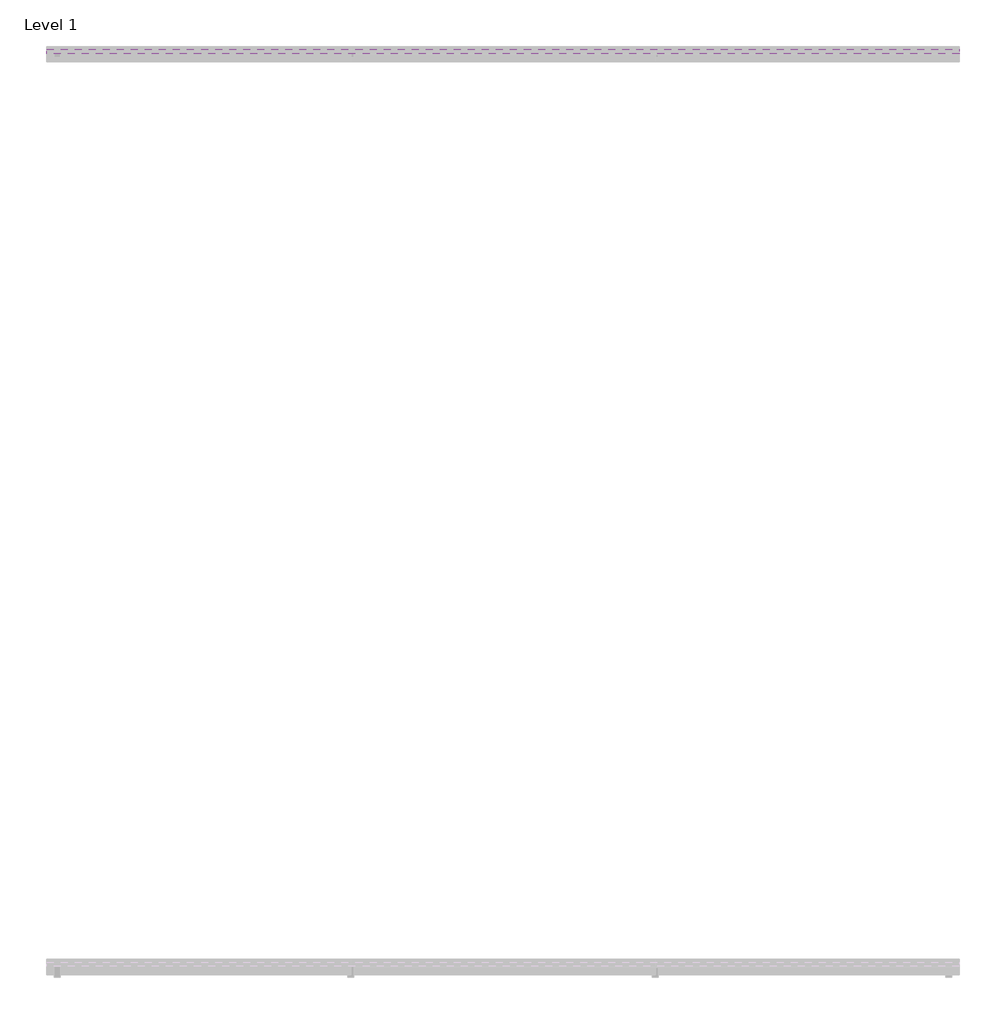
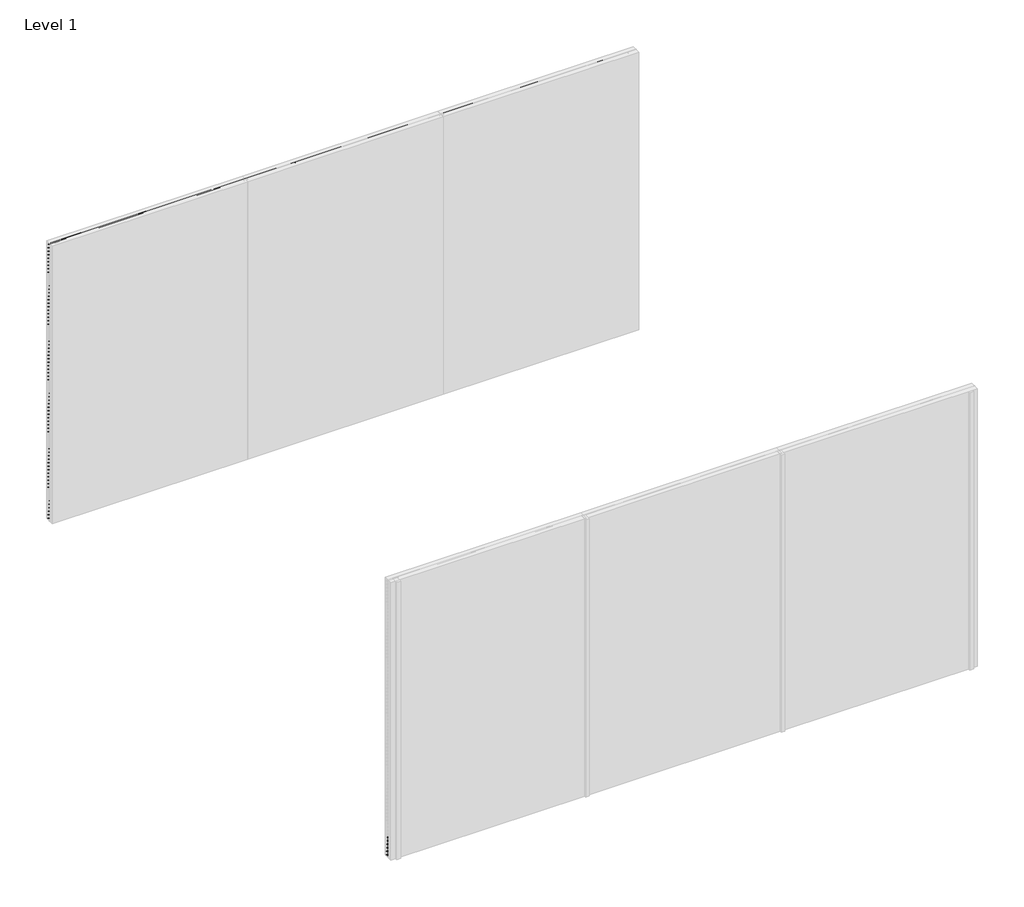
# One storey, part 2 of 2: 86 proxies.
"""IFC4 building model written with IfcOpenShell, lengths in millimetres."""

import ifcopenshell
import ifcopenshell.guid

model = None  # the IFC model being written
_history = None  # IfcOwnerHistory: only IFC2X3 demands one
_inside = {}  # id of a spatial element -> (the spatial element, [elements in it])
_under = {}  # id of a project, library or spatial element -> (it, [spatial elements below it])
_declared = {}  # id of a project -> (the project, [libraries it declares])
_typed = {}  # id of a type object -> (the type object, [elements of that type])
_made_of = {}  # id of a material, layer set ... -> (it, [elements and type objects made of it])


def new_model(schema):
    """Start an empty IFC model of exactly this schema.

    Asked for "IFC4X3", IfcOpenShell would pick the latest addendum, in which some entities
    have other attributes; the version numbers below select the first issue.
    IFC2X3 requires an IfcOwnerHistory on every rooted entity: one is made here for all.
    """
    global model, _history
    if schema == "IFC4X3":
        model = ifcopenshell.file(schema_version=(4, 3, 0, 0))
    else:
        model = ifcopenshell.file(schema=schema)
    _inside.clear()
    _under.clear()
    _declared.clear()
    _typed.clear()
    _made_of.clear()
    _history = None
    if model.schema == "IFC2X3":
        org = make("IfcOrganization", Name="unknown")
        user = make(
            "IfcPersonAndOrganization",
            ThePerson=make("IfcPerson", FamilyName="unknown"),
            TheOrganization=org,
        )
        app = make(
            "IfcApplication",
            ApplicationDeveloper=org,
            Version="unknown",
            ApplicationFullName="unknown",
            ApplicationIdentifier="unknown",
        )
        _history = make(
            "IfcOwnerHistory",
            OwningUser=user,
            OwningApplication=app,
            ChangeAction="ADDED",
            CreationDate=0,
        )
    return model


def make(cls, **values):
    """One entity of the class cls with the attributes given. An attribute that is None is left unset."""
    return model.create_entity(
        cls, **{name: value for name, value in values.items() if value is not None}
    )


def rooted(cls, **values):
    """An entity with a GlobalId (a new one), such as an element, a storey or a relation."""
    return make(cls, GlobalId=ifcopenshell.guid.new(), OwnerHistory=_history, **values)


def si_unit(unit_type, name, prefix=None):
    """IfcSIUnit, for example si_unit("LENGTHUNIT", "METRE", prefix="MILLI")."""
    return make("IfcSIUnit", UnitType=unit_type, Prefix=prefix, Name=name)


def assignment(units):
    """IfcUnitAssignment: the units of a project."""
    return None if units is None else make("IfcUnitAssignment", Units=units)


def point(xyz):
    """IfcCartesianPoint."""
    return None if xyz is None else make("IfcCartesianPoint", Coordinates=xyz)


def direction(xyz):
    """IfcDirection."""
    return None if xyz is None else make("IfcDirection", DirectionRatios=xyz)


def frame(location, z_axis=None, x_axis=None):
    """IfcAxis2Placement3D, a coordinate frame: its origin and axes. An axis left out is left unset."""
    return make(
        "IfcAxis2Placement3D",
        Location=point(location),
        Axis=direction(z_axis),
        RefDirection=direction(x_axis),
    )


def origin():
    """The frame at (0, 0, 0) with its axes left unset."""
    return frame((0.0, 0.0, 0.0))


def place(relative_to, where):
    """IfcLocalPlacement: puts the frame where relative to a parent placement (None: the world)."""
    return make(
        "IfcLocalPlacement", PlacementRelTo=relative_to, RelativePlacement=where
    )


def context(
    kind, dimensions, precision=None, world=None, true_north=None, identifier=None
):
    """IfcGeometricRepresentationContext, for example the 3D "Model" context."""
    return make(
        "IfcGeometricRepresentationContext",
        ContextIdentifier=identifier,
        ContextType=kind,
        CoordinateSpaceDimension=dimensions,
        Precision=precision,
        WorldCoordinateSystem=world,
        TrueNorth=true_north,
    )


def project(units=None, contexts=None):
    """IfcProject with its units and contexts."""
    return rooted(
        "IfcProject",
        Name="project",
        RepresentationContexts=contexts,
        UnitsInContext=assignment(units),
    )


def spatial(cls, under=None, at=None, **own):
    """A site, building, storey or space (cls), placed at a placement, below another one or the project."""
    s = rooted(cls, ObjectPlacement=at, **own)
    if under is not None:
        _under.setdefault(under.id(), (under, []))[1].append(s)
    return s


def polyline(points):
    """IfcPolyline through the points."""
    return make("IfcPolyline", Points=[point(p) for p in points])


def outline(outer, holes=None, kind="AREA"):
    """IfcArbitraryClosedProfileDef: a profile drawn as a closed curve; with holes, ...WithVoids."""
    if holes is None:
        return make("IfcArbitraryClosedProfileDef", ProfileType=kind, OuterCurve=outer)
    return make(
        "IfcArbitraryProfileDefWithVoids",
        ProfileType=kind,
        OuterCurve=outer,
        InnerCurves=holes,
    )


def extrude(swept, where, along, depth):
    """IfcExtrudedAreaSolid: the profile swept, set in the frame where, extruded along a direction by depth."""
    return make(
        "IfcExtrudedAreaSolid",
        SweptArea=swept,
        Position=where,
        ExtrudedDirection=direction(along),
        Depth=depth,
    )


def shape(context_of_items, identifier, shape_type, items):
    """IfcShapeRepresentation: the items that make up one representation, for example the "Body"."""
    return make(
        "IfcShapeRepresentation",
        ContextOfItems=context_of_items,
        RepresentationIdentifier=identifier,
        RepresentationType=shape_type,
        Items=items,
    )


def made_of(thing, what):
    """Note that an element or type object is made of a material, layer set ...; save() writes the relation."""
    if what is not None:
        _made_of.setdefault(what.id(), (what, []))[1].append(thing)
    return thing


def element(
    cls,
    number,
    at=None,
    inside=None,
    cuts=None,
    type_object=None,
    material=None,
    context=None,
    identifier="Body",
    shape_type=None,
    held_by="IfcProductDefinitionShape",
    body=None,
    shapes=None,
    **own,
):
    """One element of the class cls, such as IfcWall. Its Tag is "e" and its number.

    at: its placement. inside: the storey or other place that contains it. cuts: it is an
    opening in that element (IfcRelVoidsElement). A single representation is given by context,
    identifier, shape_type and body (its items); several are given by shapes. held_by: the class
    of the entity that holds the representations. save() writes the other relations.
    """
    e = rooted(cls, Tag="e%d" % number, ObjectPlacement=at, **own)
    if body is not None:
        shapes = [shape(context, identifier, shape_type, body)]
    if shapes is not None:
        e.Representation = make(held_by, Representations=shapes)
    if inside is not None:
        _inside.setdefault(inside.id(), (inside, []))[1].append(e)
    if cuts is not None:
        rooted(
            "IfcRelVoidsElement", RelatingBuildingElement=cuts, RelatedOpeningElement=e
        )
    if type_object is not None:
        _typed.setdefault(type_object.id(), (type_object, []))[1].append(e)
    return made_of(e, material)


def aggregate(whole, parts):
    """IfcRelAggregates: a whole, such as a stair, and the parts it consists of."""
    return rooted("IfcRelAggregates", RelatingObject=whole, RelatedObjects=parts)


def save(model, path):
    """Write the relations noted so far, then the file.

    IfcRelAggregates (storeys below a building ...), IfcRelContainedInSpatialStructure (elements
    in a storey), IfcRelDefinesByType, IfcRelAssociatesMaterial and IfcRelDeclares: one each for
    every whole, place, type object, material and project.
    """
    for whole, parts in _under.values():
        aggregate(whole, parts)
    for where, things in _inside.values():
        rooted(
            "IfcRelContainedInSpatialStructure",
            RelatedElements=things,
            RelatingStructure=where,
        )
    for kind, things in _typed.values():
        rooted("IfcRelDefinesByType", RelatedObjects=things, RelatingType=kind)
    for what, things in _made_of.values():
        rooted("IfcRelAssociatesMaterial", RelatedObjects=things, RelatingMaterial=what)
    for by, libraries in _declared.values():
        rooted("IfcRelDeclares", RelatingContext=by, RelatedDefinitions=libraries)
    model.write(path)


model = new_model("IFC4")

# Units and contexts
model_context = context("Model", 3, world=origin())
ifc_project = project(units=[si_unit("LENGTHUNIT", "METRE", prefix="MILLI")], contexts=[model_context])

# Site, building, storey
site = spatial("IfcSite", under=ifc_project)
building = spatial("IfcBuilding", under=site)
storey = spatial("IfcBuildingStorey", under=building, Name="Level 1", Elevation=0.0)

# Proxies
placement = place(None, origin())
element("IfcBuildingElementProxy", 1, Name="Wall Sweeps", at=placement, inside=storey, context=model_context, shape_type="SweptSolid", body=[
    extrude(outline(polyline([(-1995.0, 3000.0), (-1995.0, 2991.5372214), (-1969.0, 2974.0), (-1969.0, 2961.0), (-1997.0, 2979.8862385), (-1997.0, 3000.0), (-1995.0, 3000.0)])), frame((0.0, 0.0, 0.0), z_axis=(1.0, 0.0, 0.0), x_axis=(0.0, 1.0, 0.0)), (0.0, 0.0, 1.0), 6000.0),
])
element("IfcBuildingElementProxy", 2, Name="Wall Sweeps", at=placement, inside=storey, context=model_context, shape_type="SweptSolid", body=[
    extrude(outline(polyline([(-1995.0, 2962.5), (-1995.0, 2954.0372214), (-1969.0, 2936.5), (-1969.0, 2923.5), (-1997.0, 2942.3862385), (-1997.0, 2962.5), (-1995.0, 2962.5)])), frame((0.0, 0.0, 0.0), z_axis=(1.0, 0.0, 0.0), x_axis=(0.0, 1.0, 0.0)), (0.0, 0.0, 1.0), 6000.0),
])
element("IfcBuildingElementProxy", 3, Name="Wall Sweeps", at=placement, inside=storey, context=model_context, shape_type="SweptSolid", body=[
    extrude(outline(polyline([(-1995.0, 2925.0), (-1995.0, 2916.5372214), (-1969.0, 2899.0), (-1969.0, 2886.0), (-1997.0, 2904.8862385), (-1997.0, 2925.0), (-1995.0, 2925.0)])), frame((0.0, 0.0, 0.0), z_axis=(1.0, 0.0, 0.0), x_axis=(0.0, 1.0, 0.0)), (0.0, 0.0, 1.0), 6000.0),
])
element("IfcBuildingElementProxy", 4, Name="Wall Sweeps", at=placement, inside=storey, context=model_context, shape_type="SweptSolid", body=[
    extrude(outline(polyline([(-1995.0, 2887.5), (-1995.0, 2879.0372214), (-1969.0, 2861.5), (-1969.0, 2848.5), (-1997.0, 2867.3862385), (-1997.0, 2887.5), (-1995.0, 2887.5)])), frame((0.0, 0.0, 0.0), z_axis=(1.0, 0.0, 0.0), x_axis=(0.0, 1.0, 0.0)), (0.0, 0.0, 1.0), 6000.0),
])
element("IfcBuildingElementProxy", 5, Name="Wall Sweeps", at=placement, inside=storey, context=model_context, shape_type="SweptSolid", body=[
    extrude(outline(polyline([(-1995.0, 2850.0), (-1995.0, 2841.5372214), (-1969.0, 2824.0), (-1969.0, 2811.0), (-1997.0, 2829.8862385), (-1997.0, 2850.0), (-1995.0, 2850.0)])), frame((0.0, 0.0, 0.0), z_axis=(1.0, 0.0, 0.0), x_axis=(0.0, 1.0, 0.0)), (0.0, 0.0, 1.0), 6000.0),
])
element("IfcBuildingElementProxy", 6, Name="Wall Sweeps", at=placement, inside=storey, context=model_context, shape_type="SweptSolid", body=[
    extrude(outline(polyline([(-1995.0, 2812.5), (-1995.0, 2804.0372214), (-1969.0, 2786.5), (-1969.0, 2773.5), (-1997.0, 2792.3862385), (-1997.0, 2812.5), (-1995.0, 2812.5)])), frame((0.0, 0.0, 0.0), z_axis=(1.0, 0.0, 0.0), x_axis=(0.0, 1.0, 0.0)), (0.0, 0.0, 1.0), 6000.0),
])
element("IfcBuildingElementProxy", 7, Name="Wall Sweeps", at=placement, inside=storey, context=model_context, shape_type="SweptSolid", body=[
    extrude(outline(polyline([(-1995.0, 2775.0), (-1995.0, 2766.5372214), (-1969.0, 2749.0), (-1969.0, 2736.0), (-1997.0, 2754.8862385), (-1997.0, 2775.0), (-1995.0, 2775.0)])), frame((0.0, 0.0, 0.0), z_axis=(1.0, 0.0, 0.0), x_axis=(0.0, 1.0, 0.0)), (0.0, 0.0, 1.0), 6000.0),
])
element("IfcBuildingElementProxy", 8, Name="Wall Sweeps", at=placement, inside=storey, context=model_context, shape_type="SweptSolid", body=[
    extrude(outline(polyline([(-1995.0, 2737.5), (-1995.0, 2729.0372214), (-1969.0, 2711.5), (-1969.0, 2698.5), (-1997.0, 2717.3862385), (-1997.0, 2737.5), (-1995.0, 2737.5)])), frame((0.0, 0.0, 0.0), z_axis=(1.0, 0.0, 0.0), x_axis=(0.0, 1.0, 0.0)), (0.0, 0.0, 1.0), 6000.0),
])
element("IfcBuildingElementProxy", 9, Name="Wall Sweeps", at=placement, inside=storey, context=model_context, shape_type="SweptSolid", body=[
    extrude(outline(polyline([(-1995.0, 2700.0), (-1995.0, 2691.5372214), (-1969.0, 2674.0), (-1969.0, 2661.0), (-1997.0, 2679.8862385), (-1997.0, 2700.0), (-1995.0, 2700.0)])), frame((0.0, 0.0, 0.0), z_axis=(1.0, 0.0, 0.0), x_axis=(0.0, 1.0, 0.0)), (0.0, 0.0, 1.0), 6000.0),
])
element("IfcBuildingElementProxy", 10, Name="Wall Sweeps", at=placement, inside=storey, context=model_context, shape_type="SweptSolid", body=[
    extrude(outline(polyline([(-1995.0, 2662.5), (-1995.0, 2654.0372214), (-1969.0, 2636.5), (-1969.0, 2623.5), (-1997.0, 2642.3862385), (-1997.0, 2662.5), (-1995.0, 2662.5)])), frame((0.0, 0.0, 0.0), z_axis=(1.0, 0.0, 0.0), x_axis=(0.0, 1.0, 0.0)), (0.0, 0.0, 1.0), 6000.0),
])
element("IfcBuildingElementProxy", 11, Name="Wall Sweeps", at=placement, inside=storey, context=model_context, shape_type="SweptSolid", body=[
    extrude(outline(polyline([(-1995.0, 2625.0), (-1995.0, 2616.5372214), (-1969.0, 2599.0), (-1969.0, 2586.0), (-1997.0, 2604.8862385), (-1997.0, 2625.0), (-1995.0, 2625.0)])), frame((0.0, 0.0, 0.0), z_axis=(1.0, 0.0, 0.0), x_axis=(0.0, 1.0, 0.0)), (0.0, 0.0, 1.0), 6000.0),
])
element("IfcBuildingElementProxy", 12, Name="Wall Sweeps", at=placement, inside=storey, context=model_context, shape_type="SweptSolid", body=[
    extrude(outline(polyline([(-1995.0, 2587.5), (-1995.0, 2579.0372214), (-1969.0, 2561.5), (-1969.0, 2548.5), (-1997.0, 2567.3862385), (-1997.0, 2587.5), (-1995.0, 2587.5)])), frame((0.0, 0.0, 0.0), z_axis=(1.0, 0.0, 0.0), x_axis=(0.0, 1.0, 0.0)), (0.0, 0.0, 1.0), 6000.0),
])
element("IfcBuildingElementProxy", 13, Name="Wall Sweeps", at=placement, inside=storey, context=model_context, shape_type="SweptSolid", body=[
    extrude(outline(polyline([(-1995.0, 2550.0), (-1995.0, 2541.5372214), (-1969.0, 2524.0), (-1969.0, 2511.0), (-1997.0, 2529.8862385), (-1997.0, 2550.0), (-1995.0, 2550.0)])), frame((0.0, 0.0, 0.0), z_axis=(1.0, 0.0, 0.0), x_axis=(0.0, 1.0, 0.0)), (0.0, 0.0, 1.0), 6000.0),
])
element("IfcBuildingElementProxy", 14, Name="Wall Sweeps", at=placement, inside=storey, context=model_context, shape_type="SweptSolid", body=[
    extrude(outline(polyline([(-1995.0, 2512.5), (-1995.0, 2504.0372214), (-1969.0, 2486.5), (-1969.0, 2473.5), (-1997.0, 2492.3862385), (-1997.0, 2512.5), (-1995.0, 2512.5)])), frame((0.0, 0.0, 0.0), z_axis=(1.0, 0.0, 0.0), x_axis=(0.0, 1.0, 0.0)), (0.0, 0.0, 1.0), 6000.0),
])
element("IfcBuildingElementProxy", 15, Name="Wall Sweeps", at=placement, inside=storey, context=model_context, shape_type="SweptSolid", body=[
    extrude(outline(polyline([(-1995.0, 2475.0), (-1995.0, 2466.5372214), (-1969.0, 2449.0), (-1969.0, 2436.0), (-1997.0, 2454.8862385), (-1997.0, 2475.0), (-1995.0, 2475.0)])), frame((0.0, 0.0, 0.0), z_axis=(1.0, 0.0, 0.0), x_axis=(0.0, 1.0, 0.0)), (0.0, 0.0, 1.0), 6000.0),
])
element("IfcBuildingElementProxy", 16, Name="Wall Sweeps", at=placement, inside=storey, context=model_context, shape_type="SweptSolid", body=[
    extrude(outline(polyline([(-1995.0, 2437.5), (-1995.0, 2429.0372214), (-1969.0, 2411.5), (-1969.0, 2398.5), (-1997.0, 2417.3862385), (-1997.0, 2437.5), (-1995.0, 2437.5)])), frame((0.0, 0.0, 0.0), z_axis=(1.0, 0.0, 0.0), x_axis=(0.0, 1.0, 0.0)), (0.0, 0.0, 1.0), 6000.0),
])
element("IfcBuildingElementProxy", 17, Name="Wall Sweeps", at=placement, inside=storey, context=model_context, shape_type="SweptSolid", body=[
    extrude(outline(polyline([(-1995.0, 2400.0), (-1995.0, 2391.5372214), (-1969.0, 2374.0), (-1969.0, 2361.0), (-1997.0, 2379.8862385), (-1997.0, 2400.0), (-1995.0, 2400.0)])), frame((0.0, 0.0, 0.0), z_axis=(1.0, 0.0, 0.0), x_axis=(0.0, 1.0, 0.0)), (0.0, 0.0, 1.0), 6000.0),
])
element("IfcBuildingElementProxy", 18, Name="Wall Sweeps", at=placement, inside=storey, context=model_context, shape_type="SweptSolid", body=[
    extrude(outline(polyline([(-1995.0, 2362.5), (-1995.0, 2354.0372214), (-1969.0, 2336.5), (-1969.0, 2323.5), (-1997.0, 2342.3862385), (-1997.0, 2362.5), (-1995.0, 2362.5)])), frame((0.0, 0.0, 0.0), z_axis=(1.0, 0.0, 0.0), x_axis=(0.0, 1.0, 0.0)), (0.0, 0.0, 1.0), 6000.0),
])
element("IfcBuildingElementProxy", 19, Name="Wall Sweeps", at=placement, inside=storey, context=model_context, shape_type="SweptSolid", body=[
    extrude(outline(polyline([(-1995.0, 2325.0), (-1995.0, 2316.5372214), (-1969.0, 2299.0), (-1969.0, 2286.0), (-1997.0, 2304.8862385), (-1997.0, 2325.0), (-1995.0, 2325.0)])), frame((0.0, 0.0, 0.0), z_axis=(1.0, 0.0, 0.0), x_axis=(0.0, 1.0, 0.0)), (0.0, 0.0, 1.0), 6000.0),
])
element("IfcBuildingElementProxy", 20, Name="Wall Sweeps", at=placement, inside=storey, context=model_context, shape_type="SweptSolid", body=[
    extrude(outline(polyline([(-1995.0, 2287.5), (-1995.0, 2279.0372214), (-1969.0, 2261.5), (-1969.0, 2248.5), (-1997.0, 2267.3862385), (-1997.0, 2287.5), (-1995.0, 2287.5)])), frame((0.0, 0.0, 0.0), z_axis=(1.0, 0.0, 0.0), x_axis=(0.0, 1.0, 0.0)), (0.0, 0.0, 1.0), 6000.0),
])
element("IfcBuildingElementProxy", 21, Name="Wall Sweeps", at=placement, inside=storey, context=model_context, shape_type="SweptSolid", body=[
    extrude(outline(polyline([(-1995.0, 2250.0), (-1995.0, 2241.5372214), (-1969.0, 2224.0), (-1969.0, 2211.0), (-1997.0, 2229.8862385), (-1997.0, 2250.0), (-1995.0, 2250.0)])), frame((0.0, 0.0, 0.0), z_axis=(1.0, 0.0, 0.0), x_axis=(0.0, 1.0, 0.0)), (0.0, 0.0, 1.0), 6000.0),
])
element("IfcBuildingElementProxy", 22, Name="Wall Sweeps", at=placement, inside=storey, context=model_context, shape_type="SweptSolid", body=[
    extrude(outline(polyline([(-1995.0, 2212.5), (-1995.0, 2204.0372214), (-1969.0, 2186.5), (-1969.0, 2173.5), (-1997.0, 2192.3862385), (-1997.0, 2212.5), (-1995.0, 2212.5)])), frame((0.0, 0.0, 0.0), z_axis=(1.0, 0.0, 0.0), x_axis=(0.0, 1.0, 0.0)), (0.0, 0.0, 1.0), 6000.0),
])
element("IfcBuildingElementProxy", 23, Name="Wall Sweeps", at=placement, inside=storey, context=model_context, shape_type="SweptSolid", body=[
    extrude(outline(polyline([(-1995.0, 2175.0), (-1995.0, 2166.5372214), (-1969.0, 2149.0), (-1969.0, 2136.0), (-1997.0, 2154.8862385), (-1997.0, 2175.0), (-1995.0, 2175.0)])), frame((0.0, 0.0, 0.0), z_axis=(1.0, 0.0, 0.0), x_axis=(0.0, 1.0, 0.0)), (0.0, 0.0, 1.0), 6000.0),
])
element("IfcBuildingElementProxy", 24, Name="Wall Sweeps", at=placement, inside=storey, context=model_context, shape_type="SweptSolid", body=[
    extrude(outline(polyline([(-1995.0, 2137.5), (-1995.0, 2129.0372214), (-1969.0, 2111.5), (-1969.0, 2098.5), (-1997.0, 2117.3862385), (-1997.0, 2137.5), (-1995.0, 2137.5)])), frame((0.0, 0.0, 0.0), z_axis=(1.0, 0.0, 0.0), x_axis=(0.0, 1.0, 0.0)), (0.0, 0.0, 1.0), 6000.0),
])
element("IfcBuildingElementProxy", 25, Name="Wall Sweeps", at=placement, inside=storey, context=model_context, shape_type="SweptSolid", body=[
    extrude(outline(polyline([(-1995.0, 2100.0), (-1995.0, 2091.5372214), (-1969.0, 2074.0), (-1969.0, 2061.0), (-1997.0, 2079.8862385), (-1997.0, 2100.0), (-1995.0, 2100.0)])), frame((0.0, 0.0, 0.0), z_axis=(1.0, 0.0, 0.0), x_axis=(0.0, 1.0, 0.0)), (0.0, 0.0, 1.0), 6000.0),
])
element("IfcBuildingElementProxy", 26, Name="Wall Sweeps", at=placement, inside=storey, context=model_context, shape_type="SweptSolid", body=[
    extrude(outline(polyline([(-1995.0, 2062.5), (-1995.0, 2054.0372214), (-1969.0, 2036.5), (-1969.0, 2023.5), (-1997.0, 2042.3862385), (-1997.0, 2062.5), (-1995.0, 2062.5)])), frame((0.0, 0.0, 0.0), z_axis=(1.0, 0.0, 0.0), x_axis=(0.0, 1.0, 0.0)), (0.0, 0.0, 1.0), 6000.0),
])
element("IfcBuildingElementProxy", 27, Name="Wall Sweeps", at=placement, inside=storey, context=model_context, shape_type="SweptSolid", body=[
    extrude(outline(polyline([(-1995.0, 2025.0), (-1995.0, 2016.5372214), (-1969.0, 1999.0), (-1969.0, 1986.0), (-1997.0, 2004.8862385), (-1997.0, 2025.0), (-1995.0, 2025.0)])), frame((0.0, 0.0, 0.0), z_axis=(1.0, 0.0, 0.0), x_axis=(0.0, 1.0, 0.0)), (0.0, 0.0, 1.0), 6000.0),
])
element("IfcBuildingElementProxy", 28, Name="Wall Sweeps", at=placement, inside=storey, context=model_context, shape_type="SweptSolid", body=[
    extrude(outline(polyline([(-1995.0, 1987.5), (-1995.0, 1979.0372214), (-1969.0, 1961.5), (-1969.0, 1948.5), (-1997.0, 1967.3862385), (-1997.0, 1987.5), (-1995.0, 1987.5)])), frame((0.0, 0.0, 0.0), z_axis=(1.0, 0.0, 0.0), x_axis=(0.0, 1.0, 0.0)), (0.0, 0.0, 1.0), 6000.0),
])
element("IfcBuildingElementProxy", 29, Name="Wall Sweeps", at=placement, inside=storey, context=model_context, shape_type="SweptSolid", body=[
    extrude(outline(polyline([(-1995.0, 1950.0), (-1995.0, 1941.5372214), (-1969.0, 1924.0), (-1969.0, 1911.0), (-1997.0, 1929.8862385), (-1997.0, 1950.0), (-1995.0, 1950.0)])), frame((0.0, 0.0, 0.0), z_axis=(1.0, 0.0, 0.0), x_axis=(0.0, 1.0, 0.0)), (0.0, 0.0, 1.0), 6000.0),
])
element("IfcBuildingElementProxy", 30, Name="Wall Sweeps", at=placement, inside=storey, context=model_context, shape_type="SweptSolid", body=[
    extrude(outline(polyline([(-1995.0, 1912.5), (-1995.0, 1904.0372214), (-1969.0, 1886.5), (-1969.0, 1873.5), (-1997.0, 1892.3862385), (-1997.0, 1912.5), (-1995.0, 1912.5)])), frame((0.0, 0.0, 0.0), z_axis=(1.0, 0.0, 0.0), x_axis=(0.0, 1.0, 0.0)), (0.0, 0.0, 1.0), 6000.0),
])
element("IfcBuildingElementProxy", 31, Name="Wall Sweeps", at=placement, inside=storey, context=model_context, shape_type="SweptSolid", body=[
    extrude(outline(polyline([(-1995.0, 1875.0), (-1995.0, 1866.5372214), (-1969.0, 1849.0), (-1969.0, 1836.0), (-1997.0, 1854.8862385), (-1997.0, 1875.0), (-1995.0, 1875.0)])), frame((0.0, 0.0, 0.0), z_axis=(1.0, 0.0, 0.0), x_axis=(0.0, 1.0, 0.0)), (0.0, 0.0, 1.0), 6000.0),
])
element("IfcBuildingElementProxy", 32, Name="Wall Sweeps", at=placement, inside=storey, context=model_context, shape_type="SweptSolid", body=[
    extrude(outline(polyline([(-1995.0, 1837.5), (-1995.0, 1829.0372214), (-1969.0, 1811.5), (-1969.0, 1798.5), (-1997.0, 1817.3862385), (-1997.0, 1837.5), (-1995.0, 1837.5)])), frame((0.0, 0.0, 0.0), z_axis=(1.0, 0.0, 0.0), x_axis=(0.0, 1.0, 0.0)), (0.0, 0.0, 1.0), 6000.0),
])
element("IfcBuildingElementProxy", 33, Name="Wall Sweeps", at=placement, inside=storey, context=model_context, shape_type="SweptSolid", body=[
    extrude(outline(polyline([(-1995.0, 1800.0), (-1995.0, 1791.5372214), (-1969.0, 1774.0), (-1969.0, 1761.0), (-1997.0, 1779.8862385), (-1997.0, 1800.0), (-1995.0, 1800.0)])), frame((0.0, 0.0, 0.0), z_axis=(1.0, 0.0, 0.0), x_axis=(0.0, 1.0, 0.0)), (0.0, 0.0, 1.0), 6000.0),
])
element("IfcBuildingElementProxy", 34, Name="Wall Sweeps", at=placement, inside=storey, context=model_context, shape_type="SweptSolid", body=[
    extrude(outline(polyline([(-1995.0, 1762.5), (-1995.0, 1754.0372214), (-1969.0, 1736.5), (-1969.0, 1723.5), (-1997.0, 1742.3862385), (-1997.0, 1762.5), (-1995.0, 1762.5)])), frame((0.0, 0.0, 0.0), z_axis=(1.0, 0.0, 0.0), x_axis=(0.0, 1.0, 0.0)), (0.0, 0.0, 1.0), 6000.0),
])
element("IfcBuildingElementProxy", 35, Name="Wall Sweeps", at=placement, inside=storey, context=model_context, shape_type="SweptSolid", body=[
    extrude(outline(polyline([(-1995.0, 1725.0), (-1995.0, 1716.5372214), (-1969.0, 1699.0), (-1969.0, 1686.0), (-1997.0, 1704.8862385), (-1997.0, 1725.0), (-1995.0, 1725.0)])), frame((0.0, 0.0, 0.0), z_axis=(1.0, 0.0, 0.0), x_axis=(0.0, 1.0, 0.0)), (0.0, 0.0, 1.0), 6000.0),
])
element("IfcBuildingElementProxy", 36, Name="Wall Sweeps", at=placement, inside=storey, context=model_context, shape_type="SweptSolid", body=[
    extrude(outline(polyline([(-1995.0, 1687.5), (-1995.0, 1679.0372214), (-1969.0, 1661.5), (-1969.0, 1648.5), (-1997.0, 1667.3862385), (-1997.0, 1687.5), (-1995.0, 1687.5)])), frame((0.0, 0.0, 0.0), z_axis=(1.0, 0.0, 0.0), x_axis=(0.0, 1.0, 0.0)), (0.0, 0.0, 1.0), 6000.0),
])
element("IfcBuildingElementProxy", 37, Name="Wall Sweeps", at=placement, inside=storey, context=model_context, shape_type="SweptSolid", body=[
    extrude(outline(polyline([(-1995.0, 1650.0), (-1995.0, 1641.5372214), (-1969.0, 1624.0), (-1969.0, 1611.0), (-1997.0, 1629.8862385), (-1997.0, 1650.0), (-1995.0, 1650.0)])), frame((0.0, 0.0, 0.0), z_axis=(1.0, 0.0, 0.0), x_axis=(0.0, 1.0, 0.0)), (0.0, 0.0, 1.0), 6000.0),
])
element("IfcBuildingElementProxy", 38, Name="Wall Sweeps", at=placement, inside=storey, context=model_context, shape_type="SweptSolid", body=[
    extrude(outline(polyline([(-1995.0, 1612.5), (-1995.0, 1604.0372214), (-1969.0, 1586.5), (-1969.0, 1573.5), (-1997.0, 1592.3862385), (-1997.0, 1612.5), (-1995.0, 1612.5)])), frame((0.0, 0.0, 0.0), z_axis=(1.0, 0.0, 0.0), x_axis=(0.0, 1.0, 0.0)), (0.0, 0.0, 1.0), 6000.0),
])
element("IfcBuildingElementProxy", 39, Name="Wall Sweeps", at=placement, inside=storey, context=model_context, shape_type="SweptSolid", body=[
    extrude(outline(polyline([(-1995.0, 1575.0), (-1995.0, 1566.5372214), (-1969.0, 1549.0), (-1969.0, 1536.0), (-1997.0, 1554.8862385), (-1997.0, 1575.0), (-1995.0, 1575.0)])), frame((0.0, 0.0, 0.0), z_axis=(1.0, 0.0, 0.0), x_axis=(0.0, 1.0, 0.0)), (0.0, 0.0, 1.0), 6000.0),
])
element("IfcBuildingElementProxy", 40, Name="Wall Sweeps", at=placement, inside=storey, context=model_context, shape_type="SweptSolid", body=[
    extrude(outline(polyline([(-1995.0, 1537.5), (-1995.0, 1529.0372214), (-1969.0, 1511.5), (-1969.0, 1498.5), (-1997.0, 1517.3862385), (-1997.0, 1537.5), (-1995.0, 1537.5)])), frame((0.0, 0.0, 0.0), z_axis=(1.0, 0.0, 0.0), x_axis=(0.0, 1.0, 0.0)), (0.0, 0.0, 1.0), 6000.0),
])
element("IfcBuildingElementProxy", 41, Name="Wall Sweeps", at=placement, inside=storey, context=model_context, shape_type="SweptSolid", body=[
    extrude(outline(polyline([(-1995.0, 1500.0), (-1995.0, 1491.5372214), (-1969.0, 1474.0), (-1969.0, 1461.0), (-1997.0, 1479.8862385), (-1997.0, 1500.0), (-1995.0, 1500.0)])), frame((0.0, 0.0, 0.0), z_axis=(1.0, 0.0, 0.0), x_axis=(0.0, 1.0, 0.0)), (0.0, 0.0, 1.0), 6000.0),
])
element("IfcBuildingElementProxy", 42, Name="Wall Sweeps", at=placement, inside=storey, context=model_context, shape_type="SweptSolid", body=[
    extrude(outline(polyline([(-1995.0, 1462.5), (-1995.0, 1454.0372214), (-1969.0, 1436.5), (-1969.0, 1423.5), (-1997.0, 1442.3862385), (-1997.0, 1462.5), (-1995.0, 1462.5)])), frame((0.0, 0.0, 0.0), z_axis=(1.0, 0.0, 0.0), x_axis=(0.0, 1.0, 0.0)), (0.0, 0.0, 1.0), 6000.0),
])
element("IfcBuildingElementProxy", 43, Name="Wall Sweeps", at=placement, inside=storey, context=model_context, shape_type="SweptSolid", body=[
    extrude(outline(polyline([(-1995.0, 1425.0), (-1995.0, 1416.5372214), (-1969.0, 1399.0), (-1969.0, 1386.0), (-1997.0, 1404.8862385), (-1997.0, 1425.0), (-1995.0, 1425.0)])), frame((0.0, 0.0, 0.0), z_axis=(1.0, 0.0, 0.0), x_axis=(0.0, 1.0, 0.0)), (0.0, 0.0, 1.0), 6000.0),
])
element("IfcBuildingElementProxy", 44, Name="Wall Sweeps", at=placement, inside=storey, context=model_context, shape_type="SweptSolid", body=[
    extrude(outline(polyline([(-1995.0, 1387.5), (-1995.0, 1379.0372214), (-1969.0, 1361.5), (-1969.0, 1348.5), (-1997.0, 1367.3862385), (-1997.0, 1387.5), (-1995.0, 1387.5)])), frame((0.0, 0.0, 0.0), z_axis=(1.0, 0.0, 0.0), x_axis=(0.0, 1.0, 0.0)), (0.0, 0.0, 1.0), 6000.0),
])
element("IfcBuildingElementProxy", 45, Name="Wall Sweeps", at=placement, inside=storey, context=model_context, shape_type="SweptSolid", body=[
    extrude(outline(polyline([(-1995.0, 1350.0), (-1995.0, 1341.5372214), (-1969.0, 1324.0), (-1969.0, 1311.0), (-1997.0, 1329.8862385), (-1997.0, 1350.0), (-1995.0, 1350.0)])), frame((0.0, 0.0, 0.0), z_axis=(1.0, 0.0, 0.0), x_axis=(0.0, 1.0, 0.0)), (0.0, 0.0, 1.0), 6000.0),
])
element("IfcBuildingElementProxy", 46, Name="Wall Sweeps", at=placement, inside=storey, context=model_context, shape_type="SweptSolid", body=[
    extrude(outline(polyline([(-1995.0, 1312.5), (-1995.0, 1304.0372214), (-1969.0, 1286.5), (-1969.0, 1273.5), (-1997.0, 1292.3862385), (-1997.0, 1312.5), (-1995.0, 1312.5)])), frame((0.0, 0.0, 0.0), z_axis=(1.0, 0.0, 0.0), x_axis=(0.0, 1.0, 0.0)), (0.0, 0.0, 1.0), 6000.0),
])
element("IfcBuildingElementProxy", 47, Name="Wall Sweeps", at=placement, inside=storey, context=model_context, shape_type="SweptSolid", body=[
    extrude(outline(polyline([(-1995.0, 1275.0), (-1995.0, 1266.5372214), (-1969.0, 1249.0), (-1969.0, 1236.0), (-1997.0, 1254.8862385), (-1997.0, 1275.0), (-1995.0, 1275.0)])), frame((0.0, 0.0, 0.0), z_axis=(1.0, 0.0, 0.0), x_axis=(0.0, 1.0, 0.0)), (0.0, 0.0, 1.0), 6000.0),
])
element("IfcBuildingElementProxy", 48, Name="Wall Sweeps", at=placement, inside=storey, context=model_context, shape_type="SweptSolid", body=[
    extrude(outline(polyline([(-1995.0, 1237.5), (-1995.0, 1229.0372214), (-1969.0, 1211.5), (-1969.0, 1198.5), (-1997.0, 1217.3862385), (-1997.0, 1237.5), (-1995.0, 1237.5)])), frame((0.0, 0.0, 0.0), z_axis=(1.0, 0.0, 0.0), x_axis=(0.0, 1.0, 0.0)), (0.0, 0.0, 1.0), 6000.0),
])
element("IfcBuildingElementProxy", 49, Name="Wall Sweeps", at=placement, inside=storey, context=model_context, shape_type="SweptSolid", body=[
    extrude(outline(polyline([(-1995.0, 1200.0), (-1995.0, 1191.5372214), (-1969.0, 1174.0), (-1969.0, 1161.0), (-1997.0, 1179.8862385), (-1997.0, 1200.0), (-1995.0, 1200.0)])), frame((0.0, 0.0, 0.0), z_axis=(1.0, 0.0, 0.0), x_axis=(0.0, 1.0, 0.0)), (0.0, 0.0, 1.0), 6000.0),
])
element("IfcBuildingElementProxy", 50, Name="Wall Sweeps", at=placement, inside=storey, context=model_context, shape_type="SweptSolid", body=[
    extrude(outline(polyline([(-1995.0, 1162.5), (-1995.0, 1154.0372214), (-1969.0, 1136.5), (-1969.0, 1123.5), (-1997.0, 1142.3862385), (-1997.0, 1162.5), (-1995.0, 1162.5)])), frame((0.0, 0.0, 0.0), z_axis=(1.0, 0.0, 0.0), x_axis=(0.0, 1.0, 0.0)), (0.0, 0.0, 1.0), 6000.0),
])
element("IfcBuildingElementProxy", 51, Name="Wall Sweeps", at=placement, inside=storey, context=model_context, shape_type="SweptSolid", body=[
    extrude(outline(polyline([(-1995.0, 1125.0), (-1995.0, 1116.5372214), (-1969.0, 1099.0), (-1969.0, 1086.0), (-1997.0, 1104.8862385), (-1997.0, 1125.0), (-1995.0, 1125.0)])), frame((0.0, 0.0, 0.0), z_axis=(1.0, 0.0, 0.0), x_axis=(0.0, 1.0, 0.0)), (0.0, 0.0, 1.0), 6000.0),
])
element("IfcBuildingElementProxy", 52, Name="Wall Sweeps", at=placement, inside=storey, context=model_context, shape_type="SweptSolid", body=[
    extrude(outline(polyline([(-1995.0, 1087.5), (-1995.0, 1079.0372214), (-1969.0, 1061.5), (-1969.0, 1048.5), (-1997.0, 1067.3862385), (-1997.0, 1087.5), (-1995.0, 1087.5)])), frame((0.0, 0.0, 0.0), z_axis=(1.0, 0.0, 0.0), x_axis=(0.0, 1.0, 0.0)), (0.0, 0.0, 1.0), 6000.0),
])
element("IfcBuildingElementProxy", 53, Name="Wall Sweeps", at=placement, inside=storey, context=model_context, shape_type="SweptSolid", body=[
    extrude(outline(polyline([(-1995.0, 1050.0), (-1995.0, 1041.5372214), (-1969.0, 1024.0), (-1969.0, 1011.0), (-1997.0, 1029.8862385), (-1997.0, 1050.0), (-1995.0, 1050.0)])), frame((0.0, 0.0, 0.0), z_axis=(1.0, 0.0, 0.0), x_axis=(0.0, 1.0, 0.0)), (0.0, 0.0, 1.0), 6000.0),
])
element("IfcBuildingElementProxy", 54, Name="Wall Sweeps", at=placement, inside=storey, context=model_context, shape_type="SweptSolid", body=[
    extrude(outline(polyline([(-1995.0, 1012.5), (-1995.0, 1004.0372214), (-1969.0, 986.5), (-1969.0, 973.5), (-1997.0, 992.3862385), (-1997.0, 1012.5), (-1995.0, 1012.5)])), frame((0.0, 0.0, 0.0), z_axis=(1.0, 0.0, 0.0), x_axis=(0.0, 1.0, 0.0)), (0.0, 0.0, 1.0), 6000.0),
])
element("IfcBuildingElementProxy", 55, Name="Wall Sweeps", at=placement, inside=storey, context=model_context, shape_type="SweptSolid", body=[
    extrude(outline(polyline([(-1995.0, 975.0), (-1995.0, 966.5372214), (-1969.0, 949.0), (-1969.0, 936.0), (-1997.0, 954.8862385), (-1997.0, 975.0), (-1995.0, 975.0)])), frame((0.0, 0.0, 0.0), z_axis=(1.0, 0.0, 0.0), x_axis=(0.0, 1.0, 0.0)), (0.0, 0.0, 1.0), 6000.0),
])
element("IfcBuildingElementProxy", 56, Name="Wall Sweeps", at=placement, inside=storey, context=model_context, shape_type="SweptSolid", body=[
    extrude(outline(polyline([(-1995.0, 937.5), (-1995.0, 929.0372214), (-1969.0, 911.5), (-1969.0, 898.5), (-1997.0, 917.3862385), (-1997.0, 937.5), (-1995.0, 937.5)])), frame((0.0, 0.0, 0.0), z_axis=(1.0, 0.0, 0.0), x_axis=(0.0, 1.0, 0.0)), (0.0, 0.0, 1.0), 6000.0),
])
element("IfcBuildingElementProxy", 57, Name="Wall Sweeps", at=placement, inside=storey, context=model_context, shape_type="SweptSolid", body=[
    extrude(outline(polyline([(-1995.0, 900.0), (-1995.0, 891.5372214), (-1969.0, 874.0), (-1969.0, 861.0), (-1997.0, 879.8862385), (-1997.0, 900.0), (-1995.0, 900.0)])), frame((0.0, 0.0, 0.0), z_axis=(1.0, 0.0, 0.0), x_axis=(0.0, 1.0, 0.0)), (0.0, 0.0, 1.0), 6000.0),
])
element("IfcBuildingElementProxy", 58, Name="Wall Sweeps", at=placement, inside=storey, context=model_context, shape_type="SweptSolid", body=[
    extrude(outline(polyline([(-1995.0, 862.5), (-1995.0, 854.0372214), (-1969.0, 836.5), (-1969.0, 823.5), (-1997.0, 842.3862385), (-1997.0, 862.5), (-1995.0, 862.5)])), frame((0.0, 0.0, 0.0), z_axis=(1.0, 0.0, 0.0), x_axis=(0.0, 1.0, 0.0)), (0.0, 0.0, 1.0), 6000.0),
])
element("IfcBuildingElementProxy", 59, Name="Wall Sweeps", at=placement, inside=storey, context=model_context, shape_type="SweptSolid", body=[
    extrude(outline(polyline([(-1995.0, 825.0), (-1995.0, 816.5372214), (-1969.0, 799.0), (-1969.0, 786.0), (-1997.0, 804.8862385), (-1997.0, 825.0), (-1995.0, 825.0)])), frame((0.0, 0.0, 0.0), z_axis=(1.0, 0.0, 0.0), x_axis=(0.0, 1.0, 0.0)), (0.0, 0.0, 1.0), 6000.0),
])
element("IfcBuildingElementProxy", 60, Name="Wall Sweeps", at=placement, inside=storey, context=model_context, shape_type="SweptSolid", body=[
    extrude(outline(polyline([(-1995.0, 787.5), (-1995.0, 779.0372214), (-1969.0, 761.5), (-1969.0, 748.5), (-1997.0, 767.3862385), (-1997.0, 787.5), (-1995.0, 787.5)])), frame((0.0, 0.0, 0.0), z_axis=(1.0, 0.0, 0.0), x_axis=(0.0, 1.0, 0.0)), (0.0, 0.0, 1.0), 6000.0),
])
element("IfcBuildingElementProxy", 61, Name="Wall Sweeps", at=placement, inside=storey, context=model_context, shape_type="SweptSolid", body=[
    extrude(outline(polyline([(-1995.0, 750.0), (-1995.0, 741.5372214), (-1969.0, 724.0), (-1969.0, 711.0), (-1997.0, 729.8862385), (-1997.0, 750.0), (-1995.0, 750.0)])), frame((0.0, 0.0, 0.0), z_axis=(1.0, 0.0, 0.0), x_axis=(0.0, 1.0, 0.0)), (0.0, 0.0, 1.0), 6000.0),
])
element("IfcBuildingElementProxy", 62, Name="Wall Sweeps", at=placement, inside=storey, context=model_context, shape_type="SweptSolid", body=[
    extrude(outline(polyline([(-1995.0, 712.5), (-1995.0, 704.0372214), (-1969.0, 686.5), (-1969.0, 673.5), (-1997.0, 692.3862385), (-1997.0, 712.5), (-1995.0, 712.5)])), frame((0.0, 0.0, 0.0), z_axis=(1.0, 0.0, 0.0), x_axis=(0.0, 1.0, 0.0)), (0.0, 0.0, 1.0), 6000.0),
])
element("IfcBuildingElementProxy", 63, Name="Wall Sweeps", at=placement, inside=storey, context=model_context, shape_type="SweptSolid", body=[
    extrude(outline(polyline([(-1995.0, 675.0), (-1995.0, 666.5372214), (-1969.0, 649.0), (-1969.0, 636.0), (-1997.0, 654.8862385), (-1997.0, 675.0), (-1995.0, 675.0)])), frame((0.0, 0.0, 0.0), z_axis=(1.0, 0.0, 0.0), x_axis=(0.0, 1.0, 0.0)), (0.0, 0.0, 1.0), 6000.0),
])
element("IfcBuildingElementProxy", 64, Name="Wall Sweeps", at=placement, inside=storey, context=model_context, shape_type="SweptSolid", body=[
    extrude(outline(polyline([(-1995.0, 637.5), (-1995.0, 629.0372214), (-1969.0, 611.5), (-1969.0, 598.5), (-1997.0, 617.3862385), (-1997.0, 637.5), (-1995.0, 637.5)])), frame((0.0, 0.0, 0.0), z_axis=(1.0, 0.0, 0.0), x_axis=(0.0, 1.0, 0.0)), (0.0, 0.0, 1.0), 6000.0),
])
element("IfcBuildingElementProxy", 65, Name="Wall Sweeps", at=placement, inside=storey, context=model_context, shape_type="SweptSolid", body=[
    extrude(outline(polyline([(-1995.0, 600.0), (-1995.0, 591.5372214), (-1969.0, 574.0), (-1969.0, 561.0), (-1997.0, 579.8862385), (-1997.0, 600.0), (-1995.0, 600.0)])), frame((0.0, 0.0, 0.0), z_axis=(1.0, 0.0, 0.0), x_axis=(0.0, 1.0, 0.0)), (0.0, 0.0, 1.0), 6000.0),
])
element("IfcBuildingElementProxy", 66, Name="Wall Sweeps", at=placement, inside=storey, context=model_context, shape_type="SweptSolid", body=[
    extrude(outline(polyline([(-1995.0, 562.5), (-1995.0, 554.0372214), (-1969.0, 536.5), (-1969.0, 523.5), (-1997.0, 542.3862385), (-1997.0, 562.5), (-1995.0, 562.5)])), frame((0.0, 0.0, 0.0), z_axis=(1.0, 0.0, 0.0), x_axis=(0.0, 1.0, 0.0)), (0.0, 0.0, 1.0), 6000.0),
])
element("IfcBuildingElementProxy", 67, Name="Wall Sweeps", at=placement, inside=storey, context=model_context, shape_type="SweptSolid", body=[
    extrude(outline(polyline([(-1995.0, 525.0), (-1995.0, 516.5372214), (-1969.0, 499.0), (-1969.0, 486.0), (-1997.0, 504.8862385), (-1997.0, 525.0), (-1995.0, 525.0)])), frame((0.0, 0.0, 0.0), z_axis=(1.0, 0.0, 0.0), x_axis=(0.0, 1.0, 0.0)), (0.0, 0.0, 1.0), 6000.0),
])
element("IfcBuildingElementProxy", 68, Name="Wall Sweeps", at=placement, inside=storey, context=model_context, shape_type="SweptSolid", body=[
    extrude(outline(polyline([(-1995.0, 487.5), (-1995.0, 479.0372214), (-1969.0, 461.5), (-1969.0, 448.5), (-1997.0, 467.3862385), (-1997.0, 487.5), (-1995.0, 487.5)])), frame((0.0, 0.0, 0.0), z_axis=(1.0, 0.0, 0.0), x_axis=(0.0, 1.0, 0.0)), (0.0, 0.0, 1.0), 6000.0),
])
element("IfcBuildingElementProxy", 69, Name="Wall Sweeps", at=placement, inside=storey, context=model_context, shape_type="SweptSolid", body=[
    extrude(outline(polyline([(-1995.0, 450.0), (-1995.0, 441.5372214), (-1969.0, 424.0), (-1969.0, 411.0), (-1997.0, 429.8862385), (-1997.0, 450.0), (-1995.0, 450.0)])), frame((0.0, 0.0, 0.0), z_axis=(1.0, 0.0, 0.0), x_axis=(0.0, 1.0, 0.0)), (0.0, 0.0, 1.0), 6000.0),
])
element("IfcBuildingElementProxy", 70, Name="Wall Sweeps", at=placement, inside=storey, context=model_context, shape_type="SweptSolid", body=[
    extrude(outline(polyline([(-1995.0, 412.5), (-1995.0, 404.0372214), (-1969.0, 386.5), (-1969.0, 373.5), (-1997.0, 392.3862385), (-1997.0, 412.5), (-1995.0, 412.5)])), frame((0.0, 0.0, 0.0), z_axis=(1.0, 0.0, 0.0), x_axis=(0.0, 1.0, 0.0)), (0.0, 0.0, 1.0), 6000.0),
])
element("IfcBuildingElementProxy", 71, Name="Wall Sweeps", at=placement, inside=storey, context=model_context, shape_type="SweptSolid", body=[
    extrude(outline(polyline([(-1995.0, 375.0), (-1995.0, 366.5372214), (-1969.0, 349.0), (-1969.0, 336.0), (-1997.0, 354.8862385), (-1997.0, 375.0), (-1995.0, 375.0)])), frame((0.0, 0.0, 0.0), z_axis=(1.0, 0.0, 0.0), x_axis=(0.0, 1.0, 0.0)), (0.0, 0.0, 1.0), 6000.0),
])
element("IfcBuildingElementProxy", 72, Name="Wall Sweeps", at=placement, inside=storey, context=model_context, shape_type="SweptSolid", body=[
    extrude(outline(polyline([(-1995.0, 337.5), (-1995.0, 329.0372214), (-1969.0, 311.5), (-1969.0, 298.5), (-1997.0, 317.3862385), (-1997.0, 337.5), (-1995.0, 337.5)])), frame((0.0, 0.0, 0.0), z_axis=(1.0, 0.0, 0.0), x_axis=(0.0, 1.0, 0.0)), (0.0, 0.0, 1.0), 6000.0),
])
element("IfcBuildingElementProxy", 73, Name="Wall Sweeps", at=placement, inside=storey, context=model_context, shape_type="SweptSolid", body=[
    extrude(outline(polyline([(-1995.0, 300.0), (-1995.0, 291.5372214), (-1969.0, 274.0), (-1969.0, 261.0), (-1997.0, 279.8862385), (-1997.0, 300.0), (-1995.0, 300.0)])), frame((0.0, 0.0, 0.0), z_axis=(1.0, 0.0, 0.0), x_axis=(0.0, 1.0, 0.0)), (0.0, 0.0, 1.0), 6000.0),
])
element("IfcBuildingElementProxy", 74, Name="Wall Sweeps", at=placement, inside=storey, context=model_context, shape_type="SweptSolid", body=[
    extrude(outline(polyline([(-1995.0, 262.5), (-1995.0, 254.0372214), (-1969.0, 236.5), (-1969.0, 223.5), (-1997.0, 242.3862385), (-1997.0, 262.5), (-1995.0, 262.5)])), frame((0.0, 0.0, 0.0), z_axis=(1.0, 0.0, 0.0), x_axis=(0.0, 1.0, 0.0)), (0.0, 0.0, 1.0), 6000.0),
])
element("IfcBuildingElementProxy", 75, Name="Wall Sweeps", at=placement, inside=storey, context=model_context, shape_type="SweptSolid", body=[
    extrude(outline(polyline([(-1995.0, 225.0), (-1995.0, 216.5372214), (-1969.0, 199.0), (-1969.0, 186.0), (-1997.0, 204.8862385), (-1997.0, 225.0), (-1995.0, 225.0)])), frame((0.0, 0.0, 0.0), z_axis=(1.0, 0.0, 0.0), x_axis=(0.0, 1.0, 0.0)), (0.0, 0.0, 1.0), 6000.0),
])
element("IfcBuildingElementProxy", 76, Name="Wall Sweeps", at=placement, inside=storey, context=model_context, shape_type="SweptSolid", body=[
    extrude(outline(polyline([(-1995.0, 187.5), (-1995.0, 179.0372214), (-1969.0, 161.5), (-1969.0, 148.5), (-1997.0, 167.3862385), (-1997.0, 187.5), (-1995.0, 187.5)])), frame((0.0, 0.0, 0.0), z_axis=(1.0, 0.0, 0.0), x_axis=(0.0, 1.0, 0.0)), (0.0, 0.0, 1.0), 6000.0),
])
element("IfcBuildingElementProxy", 77, Name="Wall Sweeps", at=placement, inside=storey, context=model_context, shape_type="SweptSolid", body=[
    extrude(outline(polyline([(-1995.0, 150.0), (-1995.0, 141.5372214), (-1969.0, 124.0), (-1969.0, 111.0), (-1997.0, 129.8862385), (-1997.0, 150.0), (-1995.0, 150.0)])), frame((0.0, 0.0, 0.0), z_axis=(1.0, 0.0, 0.0), x_axis=(0.0, 1.0, 0.0)), (0.0, 0.0, 1.0), 6000.0),
])
element("IfcBuildingElementProxy", 78, Name="Wall Sweeps", at=placement, inside=storey, context=model_context, shape_type="SweptSolid", body=[
    extrude(outline(polyline([(-1995.0, 112.5), (-1995.0, 104.0372214), (-1969.0, 86.5), (-1969.0, 73.5), (-1997.0, 92.3862385), (-1997.0, 112.5), (-1995.0, 112.5)])), frame((0.0, 0.0, 0.0), z_axis=(1.0, 0.0, 0.0), x_axis=(0.0, 1.0, 0.0)), (0.0, 0.0, 1.0), 6000.0),
])
element("IfcBuildingElementProxy", 79, Name="Wall Sweeps", at=placement, inside=storey, context=model_context, shape_type="SweptSolid", body=[
    extrude(outline(polyline([(-1995.0, 75.0), (-1995.0, 66.5372214), (-1969.0, 49.0), (-1969.0, 36.0), (-1997.0, 54.8862385), (-1997.0, 75.0), (-1995.0, 75.0)])), frame((0.0, 0.0, 0.0), z_axis=(1.0, 0.0, 0.0), x_axis=(0.0, 1.0, 0.0)), (0.0, 0.0, 1.0), 6000.0),
])
element("IfcBuildingElementProxy", 80, Name="Wall Sweeps", at=placement, inside=storey, context=model_context, shape_type="SweptSolid", body=[
    extrude(outline(polyline([(-1995.0, 37.5), (-1995.0, 29.0372214), (-1969.0, 11.5), (-1969.0, -1.5), (-1997.0, 17.3862385), (-1997.0, 37.5), (-1995.0, 37.5)])), frame((0.0, 0.0, 0.0), z_axis=(1.0, 0.0, 0.0), x_axis=(0.0, 1.0, 0.0)), (0.0, 0.0, 1.0), 6000.0),
])
element("IfcBuildingElementProxy", 81, Name="Wall Sweeps", at=placement, inside=storey, context=model_context, shape_type="SweptSolid", body=[
    extrude(outline(polyline([(-7995.0, 225.0), (-7995.0, 216.5372214), (-7969.0, 199.0), (-7969.0, 186.0), (-7997.0, 204.8862385), (-7997.0, 225.0), (-7995.0, 225.0)])), frame((0.0, 0.0, 0.0), z_axis=(1.0, 0.0, 0.0), x_axis=(0.0, 1.0, 0.0)), (0.0, 0.0, 1.0), 6000.0),
])
element("IfcBuildingElementProxy", 82, Name="Wall Sweeps", at=placement, inside=storey, context=model_context, shape_type="SweptSolid", body=[
    extrude(outline(polyline([(-7995.0, 187.5), (-7995.0, 179.0372214), (-7969.0, 161.5), (-7969.0, 148.5), (-7997.0, 167.3862385), (-7997.0, 187.5), (-7995.0, 187.5)])), frame((0.0, 0.0, 0.0), z_axis=(1.0, 0.0, 0.0), x_axis=(0.0, 1.0, 0.0)), (0.0, 0.0, 1.0), 6000.0),
])
element("IfcBuildingElementProxy", 83, Name="Wall Sweeps", at=placement, inside=storey, context=model_context, shape_type="SweptSolid", body=[
    extrude(outline(polyline([(-7995.0, 150.0), (-7995.0, 141.5372214), (-7969.0, 124.0), (-7969.0, 111.0), (-7997.0, 129.8862385), (-7997.0, 150.0), (-7995.0, 150.0)])), frame((0.0, 0.0, 0.0), z_axis=(1.0, 0.0, 0.0), x_axis=(0.0, 1.0, 0.0)), (0.0, 0.0, 1.0), 6000.0),
])
element("IfcBuildingElementProxy", 84, Name="Wall Sweeps", at=placement, inside=storey, context=model_context, shape_type="SweptSolid", body=[
    extrude(outline(polyline([(-7995.0, 112.5), (-7995.0, 104.0372214), (-7969.0, 86.5), (-7969.0, 73.5), (-7997.0, 92.3862385), (-7997.0, 112.5), (-7995.0, 112.5)])), frame((0.0, 0.0, 0.0), z_axis=(1.0, 0.0, 0.0), x_axis=(0.0, 1.0, 0.0)), (0.0, 0.0, 1.0), 6000.0),
])
element("IfcBuildingElementProxy", 85, Name="Wall Sweeps", at=placement, inside=storey, context=model_context, shape_type="SweptSolid", body=[
    extrude(outline(polyline([(-7995.0, 75.0), (-7995.0, 66.5372214), (-7969.0, 49.0), (-7969.0, 36.0), (-7997.0, 54.8862385), (-7997.0, 75.0), (-7995.0, 75.0)])), frame((0.0, 0.0, 0.0), z_axis=(1.0, 0.0, 0.0), x_axis=(0.0, 1.0, 0.0)), (0.0, 0.0, 1.0), 6000.0),
])
element("IfcBuildingElementProxy", 86, Name="Wall Sweeps", at=placement, inside=storey, context=model_context, shape_type="SweptSolid", body=[
    extrude(outline(polyline([(-7995.0, 37.5), (-7995.0, 29.0372214), (-7969.0, 11.5), (-7969.0, -1.5), (-7997.0, 17.3862385), (-7997.0, 37.5), (-7995.0, 37.5)])), frame((0.0, 0.0, 0.0), z_axis=(1.0, 0.0, 0.0), x_axis=(0.0, 1.0, 0.0)), (0.0, 0.0, 1.0), 6000.0),
])

save(model, "model.ifc")
